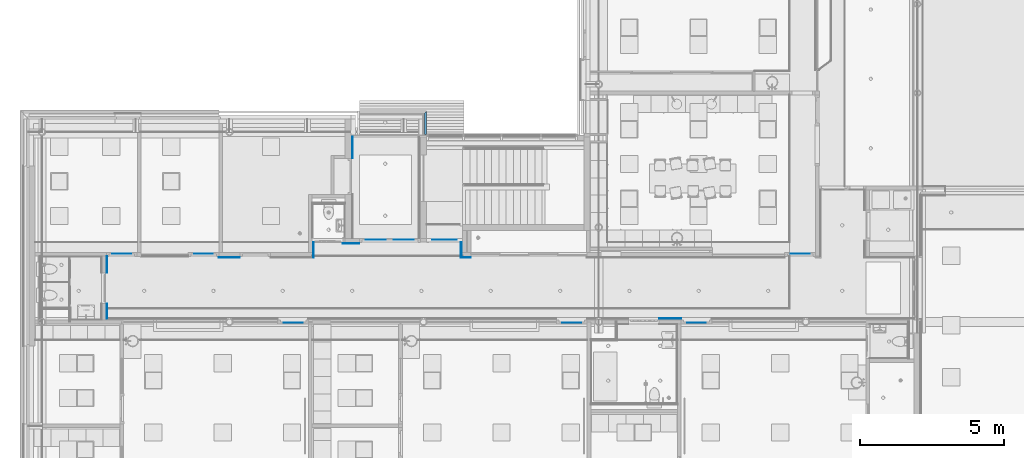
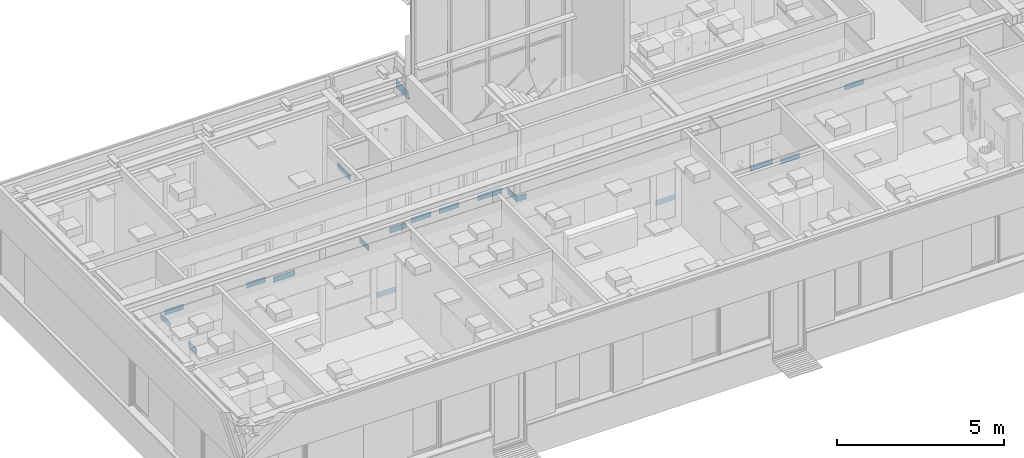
# One storey, part 33 of 347: 19 beams.
"""IFC2X3 building model written with IfcOpenShell, lengths in millimetres."""

from ifc_helpers import new_model, entity, si_unit, converted_unit, derived_unit, money_unit, direction, frame, origin_with_axes, place, context, subcontext, project, spatial, faceted_brep, material, type_object, element, save


model = new_model("IFC2X3")

# Units and contexts
model_context = context("Model", 3, precision=0.01, world=origin_with_axes(), true_north=direction((0.0, 1.0)))
plan_context = context("Plan", 3, precision=0.01, world=origin_with_axes(), true_north=direction((0.0, 1.0)))
body_context = subcontext(model_context, "Body", "Model", "MODEL_VIEW")
ifc_project = project(units=[si_unit("LENGTHUNIT", "METRE", prefix="MILLI"), si_unit("AREAUNIT", "SQUARE_METRE"), si_unit("VOLUMEUNIT", "CUBIC_METRE"), converted_unit("PLANEANGLEUNIT", "DEGREE", entity("IfcPlaneAngleMeasure", 0.0174532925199), si_unit("PLANEANGLEUNIT", "RADIAN"), dimensions=[0, 0, 0, 0, 0, 0, 0]), money_unit("EUR"), converted_unit("TIMEUNIT", "Year", entity("IfcTimeMeasure", 31556926.0), si_unit("TIMEUNIT", "SECOND"), dimensions=[0, 0, 1, 0, 0, 0, 0]), si_unit("MASSUNIT", "GRAM", prefix="KILO"), si_unit("THERMODYNAMICTEMPERATUREUNIT", "DEGREE_CELSIUS"), si_unit("LUMINOUSINTENSITYUNIT", "LUMEN"), si_unit("ENERGYUNIT", "JOULE", prefix="MEGA"), derived_unit("THERMALCONDUCTANCEUNIT", [(si_unit("POWERUNIT", "WATT"), 1), (si_unit("LENGTHUNIT", "METRE"), -1), (si_unit("THERMODYNAMICTEMPERATUREUNIT", "KELVIN"), -1)]), derived_unit("SPECIFICHEATCAPACITYUNIT", [(si_unit("ENERGYUNIT", "JOULE"), 1), (si_unit("MASSUNIT", "GRAM", prefix="KILO"), -1), (si_unit("THERMODYNAMICTEMPERATUREUNIT", "KELVIN"), -1)]), derived_unit("MASSDENSITYUNIT", [(si_unit("MASSUNIT", "GRAM", prefix="KILO"), 1), (si_unit("VOLUMEUNIT", "CUBIC_METRE"), -1)])], contexts=[model_context, plan_context])

# Site, building, storey
site_placement = place(None, origin_with_axes())
site = spatial("IfcSite", under=ifc_project, at=site_placement, Name="Site", CompositionType="ELEMENT")
building_placement = place(site_placement, origin_with_axes())
building = spatial("IfcBuilding", under=site, at=building_placement, Name="Naam gebouw", CompositionType="ELEMENT")
storey_placement = place(building_placement, origin_with_axes())
storey = spatial("IfcBuildingStorey", under=building, at=storey_placement, Name="begane grond", CompositionType="ELEMENT", Elevation=0.0)

# Beams
ifc_material_1 = material(Name="Metaal - Staal C beige")
beam_type_1 = type_object("IfcBeamType", Name="21 geveldrager (3200+) 75 x 300", PredefinedType="LINTEL")
beam_1_placement = place(storey_placement, frame((18185.0, 19000.0, -600.0), z_axis=(0.0, 0.0, 1.0), x_axis=(-1.0, 0.0, 0.0)))
element("IfcBeam", 1, at=beam_1_placement, inside=storey, type_object=beam_type_1, material=ifc_material_1, Name="21_22 geveldrager", ObjectType="LINTEL", context=body_context, shape_type="Brep", body=[
    faceted_brep([(-430.000000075, -430.000000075, 3200.0), (-430.000000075, 385.0, 3200.0), (-354.999996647, 385.0, 3200.0), (-354.999996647, -354.999996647, 3200.0), (-430.000000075, -430.000000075, 3204.99999881), (-430.000000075, 385.0, 3204.99999881), (-360.0, 385.0, 3204.99999881), (-360.0, 385.0, 3500.00000119), (-354.999996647, 385.0, 3500.00000119), (-354.999996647, -354.999996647, 3500.00000119), (-360.0, -360.0, 3500.00000119), (-360.0, -360.0, 3204.99999881)], [[[0, 1, 2, 3]], [[4, 5, 1, 0]], [[2, 1, 5, 6, 7, 8]], [[3, 2, 8, 9]], [[4, 0, 3, 9, 10, 11]], [[11, 6, 5, 4]], [[10, 7, 6, 11]], [[9, 8, 7, 10]]]),
])
ifc_material_2 = material(Name="Glas geleiding strook")
beam_type_2 = type_object("IfcBeamType", Name="42 geleiding strook 20 x 200", PredefinedType="BEAM")
beam_2_placement = place(storey_placement, frame((11425.0, 14400.0, 0.0), z_axis=(0.0, 0.0, 1.0), x_axis=(0.0, -1.0, 0.0)))
element("IfcBeam", 2, at=beam_2_placement, inside=storey, type_object=beam_type_2, material=ifc_material_2, Name="28_Balk-x", ObjectType="BEAM", context=body_context, shape_type="Brep", body=[
    faceted_brep([(40.0, 725.0, 1200.0), (40.0, 725.0, 1000.0), (40.0, 0.0, 1000.0), (40.0, 0.0, 1200.0), (60.0, 725.0, 1200.0), (60.0, 725.0, 1000.0), (60.0, 0.0, 1000.0), (60.0, 0.0, 1200.0)], [[[0, 1, 2, 3]], [[0, 4, 5, 1]], [[1, 5, 6, 2]], [[3, 2, 6, 7]], [[4, 0, 3, 7]], [[5, 4, 7, 6]]]),
])
beam_3_placement = place(storey_placement, frame((14650.0, 14400.0, 0.0), z_axis=(0.0, 0.0, 1.0), x_axis=(1.0, 0.0, 0.0)))
element("IfcBeam", 3, at=beam_3_placement, inside=storey, type_object=beam_type_2, material=ifc_material_2, Name="28_Balk-x", ObjectType="BEAM", context=body_context, shape_type="Brep", body=[
    faceted_brep([(40.0, 490.0, 1200.0), (40.0, 490.0, 1000.0), (40.0, -40.0, 1000.0), (40.0, -40.0, 1200.0), (60.0, 490.0, 1200.0), (60.0, 490.0, 1000.0), (60.0, -60.0, 1000.0), (60.0, -60.0, 1200.0)], [[[0, 1, 2, 3]], [[0, 4, 5, 1]], [[1, 5, 6, 2]], [[3, 2, 6, 7]], [[4, 0, 3, 7]], [[5, 4, 7, 6]]]),
])
beam_4_placement = place(storey_placement, frame((15714.0, 14890.0, 0.0), z_axis=(0.0, 0.0, 1.0), x_axis=(0.0, -1.0, 0.0)))
element("IfcBeam", 4, at=beam_4_placement, inside=storey, type_object=beam_type_2, material=ifc_material_2, Name="28_Balk-x", ObjectType="BEAM", context=body_context, shape_type="Brep", body=[
    faceted_brep([(40.0, 571.000052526, 1200.0), (40.0, 571.000052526, 1000.0), (40.0, 0.0, 1000.0), (40.0, 0.0, 1200.0), (60.0, 571.000052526, 1200.0), (60.0, 571.000052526, 1000.0), (60.0, 0.0, 1000.0), (60.0, 0.0, 1200.0)], [[[0, 1, 2, 3]], [[0, 4, 5, 1]], [[1, 5, 6, 2]], [[3, 2, 6, 7]], [[4, 0, 3, 7]], [[5, 4, 7, 6]]]),
])
beam_5_placement = place(storey_placement, frame((19865.0, 14890.0, 0.0), z_axis=(0.0, 0.0, 1.0), x_axis=(-1.0, 0.0, 0.0)))
element("IfcBeam", 5, at=beam_5_placement, inside=storey, type_object=beam_type_2, material=ifc_material_2, Name="28_Balk-x", ObjectType="BEAM", context=body_context, shape_type="Brep", body=[
    faceted_brep([(40.0, 530.0, 1200.0), (40.0, 530.0, 1000.0), (40.0, 0.0, 1000.0), (40.0, 0.0, 1200.0), (60.0, 550.0, 1200.0), (60.0, 550.0, 1000.0), (60.0, 0.0, 1000.0), (60.0, 0.0, 1200.0)], [[[0, 1, 2, 3]], [[0, 4, 5, 1]], [[1, 5, 6, 2]], [[3, 2, 6, 7]], [[4, 0, 3, 7]], [[5, 4, 7, 6]]]),
])
beam_6_placement = place(storey_placement, frame((19865.0, 14400.0, 0.0), z_axis=(0.0, 0.0, 1.0), x_axis=(0.0, -1.0, 0.0)))
element("IfcBeam", 6, at=beam_6_placement, inside=storey, type_object=beam_type_2, material=ifc_material_2, Name="28_Balk-x", ObjectType="BEAM", context=body_context, shape_type="Brep", body=[
    faceted_brep([(40.0, 285.0, 1200.0), (40.0, 285.0, 1000.0), (40.0, -40.0, 1000.0), (40.0, -40.0, 1200.0), (60.0, 285.0, 1200.0), (60.0, 285.0, 1000.0), (60.0, -60.0, 1000.0), (60.0, -60.0, 1200.0)], [[[0, 1, 2, 3]], [[0, 4, 5, 1]], [[1, 5, 6, 2]], [[3, 2, 6, 7]], [[4, 0, 3, 7]], [[5, 4, 7, 6]]]),
])
beam_7_placement = place(storey_placement, frame((27425.0, 12187.5, 0.0), z_axis=(0.0, 0.0, 1.0), x_axis=(0.0, 1.0, 0.0)))
element("IfcBeam", 7, at=beam_7_placement, inside=storey, type_object=beam_type_2, material=ifc_material_2, Name="28_Balk-x", ObjectType="BEAM", context=body_context, shape_type="Brep", body=[
    faceted_brep([(40.0, 761.0, 1200.0), (40.0, 761.0, 1000.0), (40.0, 0.0, 1000.0), (40.0, 0.0, 1200.0), (60.0, 761.0, 1200.0), (60.0, 761.0, 1000.0), (60.0, 0.0, 1000.0), (60.0, 0.0, 1200.0)], [[[0, 1, 2, 3]], [[0, 4, 5, 1]], [[1, 5, 6, 2]], [[3, 2, 6, 7]], [[4, 0, 3, 7]], [[5, 4, 7, 6]]]),
])
beam_8_placement = place(storey_placement, frame((7500.0, 12187.5, 0.0), z_axis=(0.0, 0.0, 1.0), x_axis=(1.0, 0.0, 0.0)))
element("IfcBeam", 8, at=beam_8_placement, inside=storey, type_object=beam_type_2, material=ifc_material_2, Name="28_Balk-x", ObjectType="BEAM", context=body_context, shape_type="Brep", body=[
    faceted_brep([(40.0, 574.275, 1200.0), (40.0, 574.275, 1000.0), (40.0, 40.0, 1000.0), (40.0, 40.0, 1200.0), (60.0, 574.275, 1200.0), (60.0, 574.275, 1000.0), (60.0, 60.0, 1000.0), (60.0, 60.0, 1200.0)], [[[0, 1, 2, 3]], [[0, 4, 5, 1]], [[1, 5, 6, 2]], [[3, 2, 6, 7]], [[4, 0, 3, 7]], [[5, 4, 7, 6]]]),
])
beam_9_placement = place(storey_placement, frame((7500.0, 13825.775, 0.0), z_axis=(0.0, 0.0, 1.0), x_axis=(1.0, 0.0, 0.0)))
element("IfcBeam", 9, at=beam_9_placement, inside=storey, type_object=beam_type_2, material=ifc_material_2, Name="28_Balk-x", ObjectType="BEAM", context=body_context, shape_type="Brep", body=[
    faceted_brep([(40.0, 574.225, 1200.0), (40.0, 574.225, 1000.0), (40.0, 0.0, 1000.0), (40.0, 0.0, 1200.0), (60.0, 574.225, 1200.0), (60.0, 574.225, 1000.0), (60.0, 0.0, 1000.0), (60.0, 0.0, 1200.0)], [[[0, 1, 2, 3]], [[0, 4, 5, 1]], [[1, 5, 6, 2]], [[3, 2, 6, 7]], [[4, 0, 3, 7]], [[5, 4, 7, 6]]]),
])
beam_10_placement = place(storey_placement, frame((16005.0000216, 18533.0000009, 0.0), z_axis=(0.0, 0.0, 1.0), x_axis=(-1.0, 0.0, 0.0)))
element("IfcBeam", 10, at=beam_10_placement, inside=storey, type_object=beam_type_2, material=ifc_material_2, Name="28_Balk-x", ObjectType="BEAM", context=body_context, shape_type="Brep", body=[
    faceted_brep([(-60.0, 743.000000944, 1200.0), (-60.0, 743.000000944, 1000.0), (-60.0, 0.0, 1000.0), (-60.0, 0.0, 1200.0), (-40.0, 743.000000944, 1200.0), (-40.0, 743.000000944, 1000.0), (-40.0, 0.0, 1000.0), (-40.0, 0.0, 1200.0)], [[[0, 1, 2, 3]], [[0, 4, 5, 1]], [[1, 5, 6, 2]], [[3, 2, 6, 7]], [[4, 0, 3, 7]], [[5, 4, 7, 6]]]),
])
ifc_material_3 = material(Name="Glas geleiding strook matt")
beam_type_3 = type_object("IfcBeamType", Name="42 geleiding strook (mat) 2 x 200", PredefinedType="BEAM")
beam_11_placement = place(storey_placement, frame((7734.0, 14488.0, 0.0), z_axis=(0.0, 0.0, 1.0), x_axis=(0.0, -1.0, 0.0)))
element("IfcBeam", 11, at=beam_11_placement, inside=storey, type_object=beam_type_3, material=ifc_material_3, Name="28_Balk-x", ObjectType="BEAM", context=body_context, shape_type="Brep", body=[
    faceted_brep([(0.0, 654.0, 1200.0), (0.0, 654.0, 1000.0), (0.0, 0.0, 1000.0), (0.0, 0.0, 1200.0), (2.0, 654.0, 1200.0), (2.0, 654.0, 1000.0), (2.0, 0.0, 1000.0), (2.0, 0.0, 1200.0)], [[[0, 1, 2, 3]], [[0, 4, 5, 1]], [[1, 5, 6, 2]], [[3, 2, 6, 7]], [[4, 0, 3, 7]], [[5, 4, 7, 6]]]),
])
beam_12_placement = place(storey_placement, frame((16511.5916116, 14967.9771756, 0.0), z_axis=(0.0, 0.0, 1.0), x_axis=(0.0, -1.0, 0.0)))
element("IfcBeam", 12, at=beam_12_placement, inside=storey, type_object=beam_type_3, material=ifc_material_3, Name="28_Balk-x", ObjectType="BEAM", context=body_context, shape_type="Brep", body=[
    faceted_brep([(0.0, 693.457926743, 1200.0), (0.0, 693.457926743, 1000.0), (0.0, 0.0, 1000.0), (0.0, 0.0, 1200.0), (2.0, 693.457926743, 1200.0), (2.0, 693.457926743, 1000.0), (2.0, 0.0, 1000.0), (2.0, 0.0, 1200.0)], [[[0, 1, 2, 3]], [[0, 4, 5, 1]], [[1, 5, 6, 2]], [[3, 2, 6, 7]], [[4, 0, 3, 7]], [[5, 4, 7, 6]]]),
])
beam_13_placement = place(storey_placement, frame((18818.9672645, 14978.0, 0.0), z_axis=(0.0, 0.0, 1.0), x_axis=(0.0, -1.0, 0.0)))
element("IfcBeam", 13, at=beam_13_placement, inside=storey, type_object=beam_type_3, material=ifc_material_3, Name="28_Balk-x", ObjectType="BEAM", context=body_context, shape_type="Brep", body=[
    faceted_brep([(0.0, 841.032735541, 1200.0), (0.0, 841.032735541, 1000.0), (0.0, 0.0, 1000.0), (0.0, 0.0, 1200.0), (2.0, 841.032735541, 1200.0), (2.0, 841.032735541, 1000.0), (2.0, 0.0, 1000.0), (2.0, 0.0, 1200.0)], [[[0, 1, 2, 3]], [[0, 4, 5, 1]], [[1, 5, 6, 2]], [[3, 2, 6, 7]], [[4, 0, 3, 7]], [[5, 4, 7, 6]]]),
])
for number, where, z_axis, x_axis, name in (
    (14, (10566.0, 14488.0, 0.0), (0.0, 0.0, 1.0), (0.0, -1.0, 0.0), "28_Balk-x"),
    (15, (31216.011502, 14488.0, 0.0), (0.0, 0.0, 1.0), (0.0, -1.0, 0.0), "28_Balk-x"),
):
    element("IfcBeam", number, at=place(storey_placement, frame(where, z_axis=z_axis, x_axis=x_axis)), inside=storey, type_object=beam_type_3, material=ifc_material_3, Name=name, ObjectType="BEAM", context=body_context, shape_type="Brep", body=[
        faceted_brep([(0.0, 654.0, 1200.0), (0.0, 654.0, 1000.0), (0.0, 0.0, 1000.0), (0.0, 0.0, 1200.0), (2.0, 654.0, 1200.0), (2.0, 654.0, 1000.0), (2.0, 0.0, 1000.0), (2.0, 0.0, 1200.0)], [[[0, 1, 2, 3]], [[0, 4, 5, 1]], [[1, 5, 6, 2]], [[3, 2, 6, 7]], [[4, 0, 3, 7]], [[5, 4, 7, 6]]]),
    ])
for number, where, z_axis, x_axis, name in (
    (16, (27630.0, 12099.5, 0.0), (0.0, 0.0, 1.0), (0.0, -1.0, 0.0), "28_Balk-x"),
    (17, (23316.0, 12099.5, 0.0), (0.0, 0.0, 1.0), (0.0, -1.0, 0.0), "28_Balk-x"),
    (18, (13666.0, 12099.5, 0.0), (0.0, 0.0, 1.0), (0.0, -1.0, 0.0), "28_Balk-x"),
):
    element("IfcBeam", number, at=place(storey_placement, frame(where, z_axis=z_axis, x_axis=x_axis)), inside=storey, type_object=beam_type_3, material=ifc_material_3, Name=name, ObjectType="BEAM", context=body_context, shape_type="Brep", body=[
        faceted_brep([(-2.0, 654.0, 1200.0), (-2.0, 654.0, 1000.0), (-2.0, 0.0, 1000.0), (-2.0, 0.0, 1200.0), (0.0, 654.0, 1200.0), (0.0, 654.0, 1000.0), (0.0, 0.0, 1000.0), (0.0, 0.0, 1200.0)], [[[0, 1, 2, 3]], [[0, 4, 5, 1]], [[1, 5, 6, 2]], [[3, 2, 6, 7]], [[4, 0, 3, 7]], [[5, 4, 7, 6]]]),
    ])
beam_14_placement = place(storey_placement, frame((17483.6607784, 14967.9771756, 0.0), z_axis=(0.0, 0.0, 1.0), x_axis=(0.0, -1.0, 0.0)))
element("IfcBeam", 19, at=beam_14_placement, inside=storey, type_object=beam_type_3, material=ifc_material_3, Name="28_Balk-x", ObjectType="BEAM", context=body_context, shape_type="Brep", body=[
    faceted_brep([(0.0, 693.457926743, 1200.0), (0.0, 693.457926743, 1000.0), (0.0, 0.0, 1000.0), (0.0, 0.0, 1200.0), (2.0, 693.457926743, 1200.0), (2.0, 693.457926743, 1000.0), (2.0, 0.0, 1000.0), (2.0, 0.0, 1200.0)], [[[0, 1, 2, 3]], [[0, 4, 5, 1]], [[1, 5, 6, 2]], [[3, 2, 6, 7]], [[4, 0, 3, 7]], [[5, 4, 7, 6]]]),
])

save(model, "model.ifc")
